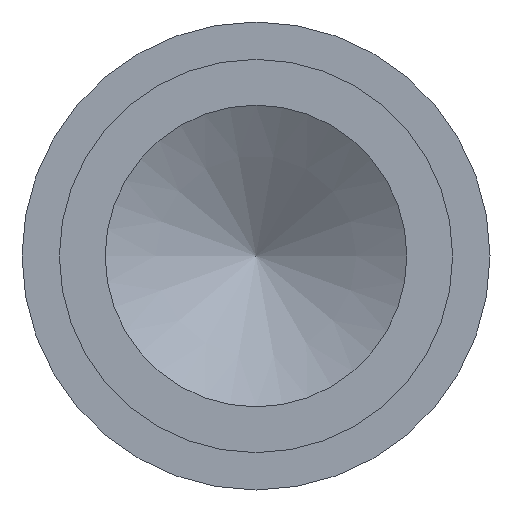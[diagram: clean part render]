
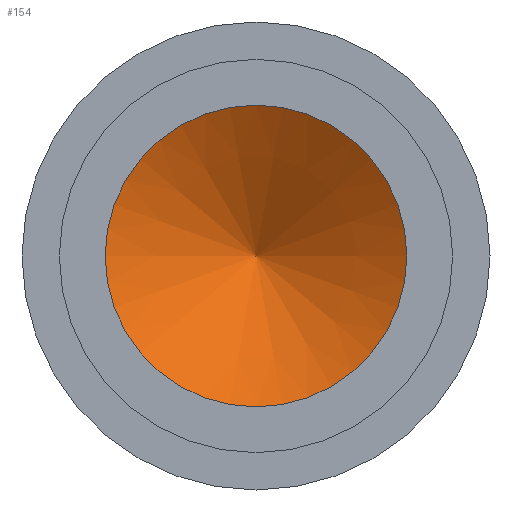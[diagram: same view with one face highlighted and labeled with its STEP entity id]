
A CAD part, left-side view. The second image highlights one B-rep face of the part: STEP entity #154.
In plain terms, the highlighted conical face has half-angle 59 degrees and reference radius 1.276 mm.
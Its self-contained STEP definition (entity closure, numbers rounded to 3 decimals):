
#43=FACE_OUTER_BOUND($,#55,.T.);
#55=EDGE_LOOP($,(#125));
#83=CIRCLE($,#173,2.553);
#97=VERTEX_POINT($,#263);
#111=EDGE_CURVE($,#97,#97,#83,.T.);
#125=ORIENTED_EDGE($,*,*,#111,.T.);
#153=CONICAL_SURFACE($,#172,1.276,59.);
#154=ADVANCED_FACE($,(#43),#153,.F.);
#172=AXIS2_PLACEMENT_3D($,#262,#203,#204);
#173=AXIS2_PLACEMENT_3D($,#264,#205,#206);
#203=DIRECTION('center_axis',(-1.,0.,0.));
#204=DIRECTION('ref_axis',(0.,-1.,0.));
#205=DIRECTION('center_axis',(-1.,0.,0.));
#206=DIRECTION('ref_axis',(0.,-1.,0.));
#262=CARTESIAN_POINT('Origin',(2.443,0.,0.));
#263=CARTESIAN_POINT('',(1.676,-2.553,0.));
#264=CARTESIAN_POINT('Origin',(1.676,0.,0.));
